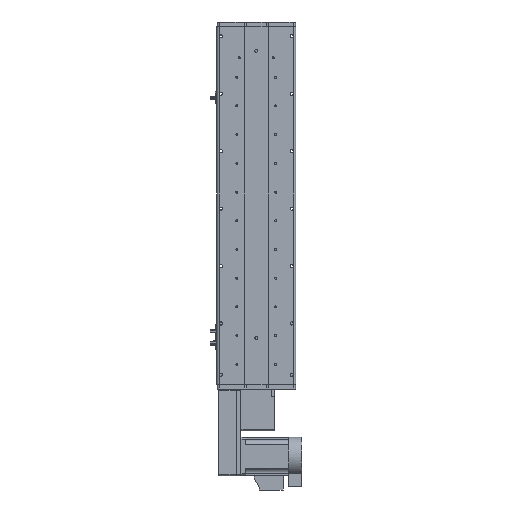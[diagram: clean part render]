
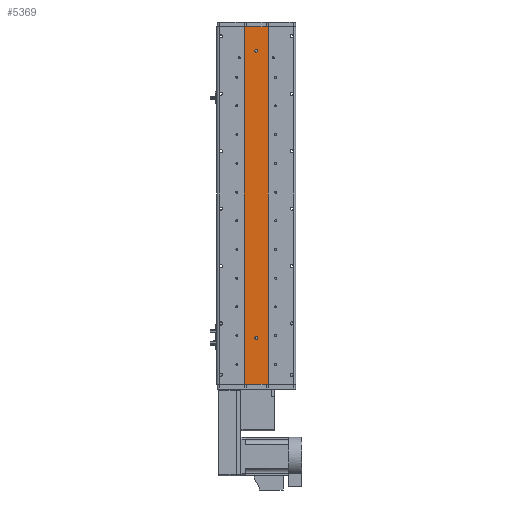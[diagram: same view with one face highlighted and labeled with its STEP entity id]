
A CAD part, front view. The second image highlights one B-rep face of the part: STEP entity #5369.
In plain terms, the highlighted planar face has unit normal (0, -1, 0).
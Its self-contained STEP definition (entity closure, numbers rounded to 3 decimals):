
#106 = CARTESIAN_POINT ( 'NONE',  ( -25., 1., 373.5 ) ) ;
#1638 = VERTEX_POINT ( 'NONE', #26135 ) ;
#2826 = CIRCLE ( 'NONE', #27740, 3. ) ;
#4123 = DIRECTION ( 'NONE',  ( 0., 0., -1. ) ) ;
#5000 = CARTESIAN_POINT ( 'NONE',  ( -25., 1., 373.5 ) ) ;
#5170 = ORIENTED_EDGE ( 'NONE', *, *, #7446, .F. ) ;
#5369 = ADVANCED_FACE ( 'NONE', ( #12192, #47675, #10666 ), #6573, .F. ) ;
#6124 = AXIS2_PLACEMENT_3D ( 'NONE', #54999, #35691, #6781 ) ;
#6573 = PLANE ( 'NONE',  #6124 ) ;
#6781 = DIRECTION ( 'NONE',  ( 0., 0., 1. ) ) ;
#6807 = CARTESIAN_POINT ( 'NONE',  ( 0., 1., 323.5 ) ) ;
#7446 = EDGE_CURVE ( 'NONE', #10742, #53774, #2826, .T. ) ;
#7598 = CARTESIAN_POINT ( 'NONE',  ( 25., 1., -373.5 ) ) ;
#8768 = EDGE_CURVE ( 'NONE', #43010, #22588, #43738, .T. ) ;
#10398 = CARTESIAN_POINT ( 'NONE',  ( 0., 1., 320.5 ) ) ;
#10666 = FACE_OUTER_BOUND ( 'NONE', #26561, .T. ) ;
#10742 = VERTEX_POINT ( 'NONE', #27238 ) ;
#11276 = VECTOR ( 'NONE', #4123, 1000. ) ;
#11675 = DIRECTION ( 'NONE',  ( 0., 0., -1. ) ) ;
#12058 = CARTESIAN_POINT ( 'NONE',  ( 0., 1., 323.5 ) ) ;
#12143 = ORIENTED_EDGE ( 'NONE', *, *, #8768, .F. ) ;
#12192 = FACE_BOUND ( 'NONE', #44761, .T. ) ;
#12570 = CARTESIAN_POINT ( 'NONE',  ( 25., 1., 373.5 ) ) ;
#15937 = DIRECTION ( 'NONE',  ( 0., -1., 0. ) ) ;
#16953 = DIRECTION ( 'NONE',  ( 0., 0., -1. ) ) ;
#18057 = ORIENTED_EDGE ( 'NONE', *, *, #48043, .F. ) ;
#19313 = CIRCLE ( 'NONE', #36369, 3. ) ;
#19614 = LINE ( 'NONE', #37905, #11276 ) ;
#20172 = DIRECTION ( 'NONE',  ( 1., 0., 0. ) ) ;
#21142 = ORIENTED_EDGE ( 'NONE', *, *, #21545, .T. ) ;
#21297 = VECTOR ( 'NONE', #33962, 1000. ) ;
#21367 = EDGE_LOOP ( 'NONE', ( #5170, #61710 ) ) ;
#21545 = EDGE_CURVE ( 'NONE', #43010, #46953, #35555, .T. ) ;
#22588 = VERTEX_POINT ( 'NONE', #38267 ) ;
#26135 = CARTESIAN_POINT ( 'NONE',  ( 0., 1., 326.5 ) ) ;
#26388 = EDGE_CURVE ( 'NONE', #38456, #1638, #19313, .T. ) ;
#26561 = EDGE_LOOP ( 'NONE', ( #31624, #18057, #12143, #21142 ) ) ;
#26571 = DIRECTION ( 'NONE',  ( 0., -1., 0. ) ) ;
#27238 = CARTESIAN_POINT ( 'NONE',  ( 0., 1., -279.5 ) ) ;
#27740 = AXIS2_PLACEMENT_3D ( 'NONE', #44818, #15937, #49682 ) ;
#28664 = EDGE_CURVE ( 'NONE', #1638, #38456, #46238, .T. ) ;
#30597 = VERTEX_POINT ( 'NONE', #7598 ) ;
#31624 = ORIENTED_EDGE ( 'NONE', *, *, #47010, .T. ) ;
#33173 = ORIENTED_EDGE ( 'NONE', *, *, #28664, .F. ) ;
#33962 = DIRECTION ( 'NONE',  ( 0., 0., -1. ) ) ;
#35555 = LINE ( 'NONE', #5000, #21297 ) ;
#35691 = DIRECTION ( 'NONE',  ( 0., 1., 0. ) ) ;
#36369 = AXIS2_PLACEMENT_3D ( 'NONE', #6807, #40614, #11675 ) ;
#37905 = CARTESIAN_POINT ( 'NONE',  ( 25., 1., 373.5 ) ) ;
#38267 = CARTESIAN_POINT ( 'NONE',  ( 25., 1., 373.5 ) ) ;
#38456 = VERTEX_POINT ( 'NONE', #10398 ) ;
#39117 = CARTESIAN_POINT ( 'NONE',  ( -25., 1., -373.5 ) ) ;
#40614 = DIRECTION ( 'NONE',  ( 0., -1., 0. ) ) ;
#40721 = VECTOR ( 'NONE', #46333, 1000. ) ;
#41612 = VECTOR ( 'NONE', #20172, 1000. ) ;
#42264 = CARTESIAN_POINT ( 'NONE',  ( 0., 1., -273.5 ) ) ;
#43010 = VERTEX_POINT ( 'NONE', #106 ) ;
#43738 = LINE ( 'NONE', #12570, #40721 ) ;
#43911 = CIRCLE ( 'NONE', #60903, 3. ) ;
#44197 = CARTESIAN_POINT ( 'NONE',  ( 25., 1., -373.5 ) ) ;
#44664 = LINE ( 'NONE', #44197, #41612 ) ;
#44761 = EDGE_LOOP ( 'NONE', ( #58091, #33173 ) ) ;
#44818 = CARTESIAN_POINT ( 'NONE',  ( 0., 1., -276.5 ) ) ;
#45833 = DIRECTION ( 'NONE',  ( 0., -1., 0. ) ) ;
#46238 = CIRCLE ( 'NONE', #48242, 3. ) ;
#46333 = DIRECTION ( 'NONE',  ( 1., 0., 0. ) ) ;
#46953 = VERTEX_POINT ( 'NONE', #39117 ) ;
#47010 = EDGE_CURVE ( 'NONE', #46953, #30597, #44664, .T. ) ;
#47675 = FACE_BOUND ( 'NONE', #21367, .T. ) ;
#48043 = EDGE_CURVE ( 'NONE', #22588, #30597, #19614, .T. ) ;
#48242 = AXIS2_PLACEMENT_3D ( 'NONE', #12058, #45833, #16953 ) ;
#49682 = DIRECTION ( 'NONE',  ( 0., 0., -1. ) ) ;
#53147 = EDGE_CURVE ( 'NONE', #53774, #10742, #43911, .T. ) ;
#53774 = VERTEX_POINT ( 'NONE', #42264 ) ;
#54999 = CARTESIAN_POINT ( 'NONE',  ( 25., 1., 373.5 ) ) ;
#55502 = CARTESIAN_POINT ( 'NONE',  ( 0., 1., -276.5 ) ) ;
#58091 = ORIENTED_EDGE ( 'NONE', *, *, #26388, .F. ) ;
#60340 = DIRECTION ( 'NONE',  ( 0., 0., -1. ) ) ;
#60903 = AXIS2_PLACEMENT_3D ( 'NONE', #55502, #26571, #60340 ) ;
#61710 = ORIENTED_EDGE ( 'NONE', *, *, #53147, .F. ) ;
